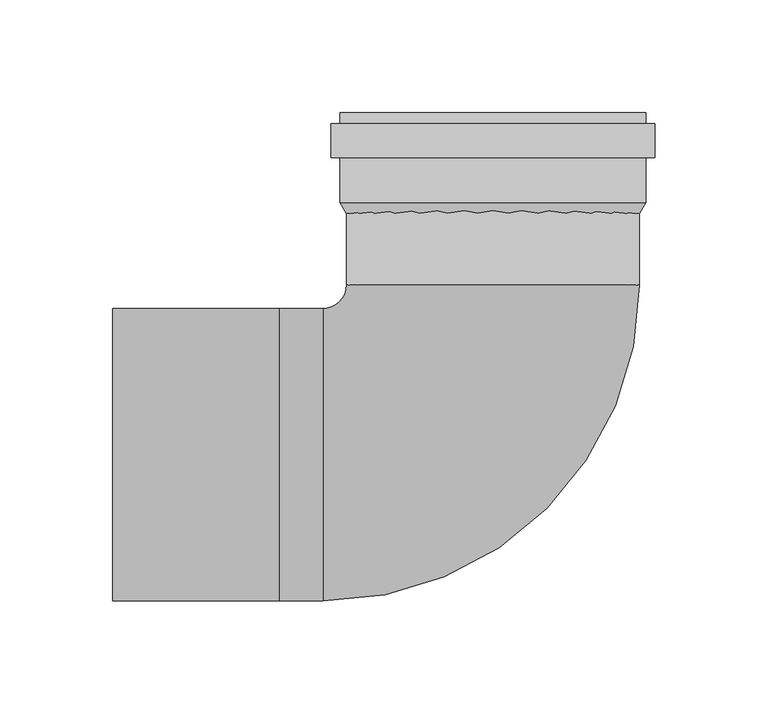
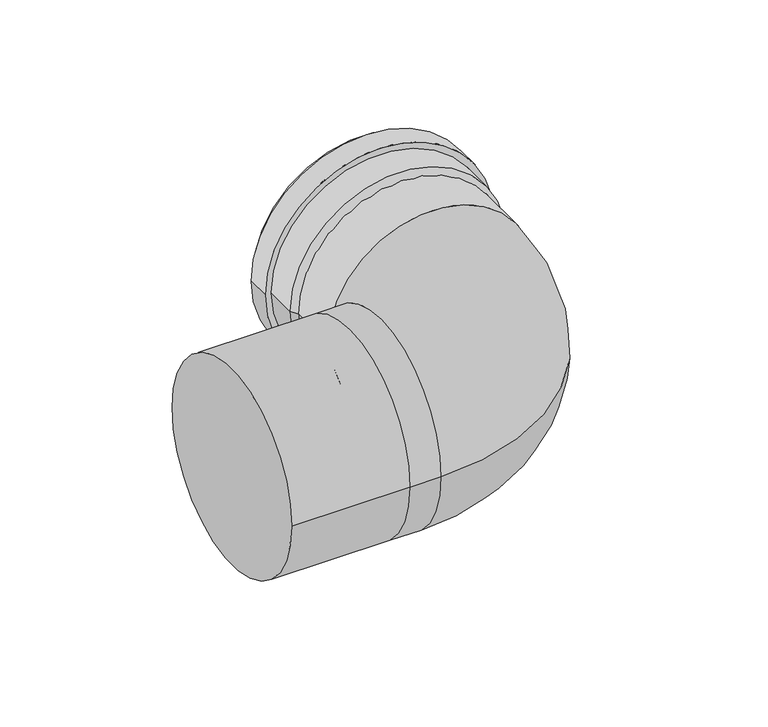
"""IFC4 building model written with IfcOpenShell, lengths in millimetres: duct fitting geometry, NLRS_57_DUF_UN_Twinline Bend_M&G : ø130 - 150 - 200."""

from ifc_helpers import new_model, si_unit, point, frame, origin, origin_2d, place, context, project, spatial, polyline, circle_curve, ellipse_curve, trimmed, segment, composite_curve, outline, extrude, source, transform, mapped, element, save
from ifc_brep_helpers import plane_surface, cylinder_surface, revolved_surface, advanced_brep


def duct_fitting_8a0d83d2(model_context):
    return source(origin(), model_context, "Body", "SolidModel", [
        advanced_brep(
        [(-169.0, 65.0, 0.0), (-169.0, -65.0, 0.0), (-95.0, 65.0, 0.0), (-95.0, -65.0, 0.0), (-75.4, -65.0, 0.0), (-75.4, 65.0, 0.0), (65.0, 75.4, 0.0), (-65.0, 75.4, 0.0), (65.0, 112.0, 0.0), (0.0, 112.0, 65.0), (-65.0, 112.0, 0.0), (0.0, 112.0, -65.0), (0.0, 114.0, -65.0), (0.0, 114.0, 65.0)],
        [
            (0, 1, circle_curve(frame((-169.0, 0.0, 0.0), z_axis=(-1.0, 0.0, 0.0), x_axis=(0.0, -1.0, 0.0)), 65.0)),
            (1, 0, circle_curve(frame((-169.0, 0.0, 0.0), z_axis=(-1.0, 0.0, 0.0), x_axis=(0.0, -1.0, 0.0)), 65.0)),
            (0, 2),
            (2, 3, circle_curve(frame((-95.0, 0.0, 0.0), z_axis=(-1.0, 0.0, 0.0), x_axis=(0.0, -1.0, 0.0)), 65.0)),
            (3, 1),
            (3, 2, circle_curve(frame((-95.0, 0.0, 0.0), z_axis=(-1.0, 0.0, 0.0), x_axis=(0.0, -1.0, 0.0)), 65.0)),
            (3, 4),
            (4, 5, circle_curve(frame((-75.4, 0.0, 0.0), z_axis=(-1.0, 0.0, 0.0), x_axis=(0.0, 1.0, 0.0)), 65.0)),
            (5, 2),
            (5, 4, circle_curve(frame((-75.4, 0.0, 0.0), z_axis=(-1.0, 0.0, 0.0), x_axis=(0.0, 1.0, 0.0)), 65.0)),
            (4, 6, circle_curve(frame((-75.4, 75.4, 0.0), z_axis=(0.0, 0.0, 1.0), x_axis=(0.0, -1.0, 0.0)), 140.4)),
            (6, 7, circle_curve(frame((0.0, 75.4, 0.0), z_axis=(0.0, -1.0, 0.0), x_axis=(-1.0, 0.0, 0.0)), 65.0)),
            (7, 5, circle_curve(frame((-75.4, 75.4, 0.0), z_axis=(0.0, 0.0, -1.0), x_axis=(0.0, -1.0, 0.0)), 10.4)),
            (7, 6, circle_curve(frame((0.0, 75.4, 0.0), z_axis=(0.0, -1.0, 0.0), x_axis=(-1.0, 0.0, 0.0)), 65.0)),
            (6, 8),
            (8, 9, circle_curve(frame((0.0, 112.0, 0.0), z_axis=(0.0, -1.0, 0.0), x_axis=(-1.0, 0.0, 0.0)), 65.0)),
            (9, 10, circle_curve(frame((0.0, 112.0, 0.0), z_axis=(0.0, -1.0, 0.0), x_axis=(-1.0, 0.0, 0.0)), 65.0)),
            (10, 7),
            (10, 11, circle_curve(frame((0.0, 112.0, 0.0), z_axis=(0.0, -1.0, 0.0), x_axis=(-1.0, 0.0, 0.0)), 65.0)),
            (11, 8, circle_curve(frame((0.0, 112.0, 0.0), z_axis=(0.0, -1.0, 0.0), x_axis=(-1.0, 0.0, 0.0)), 65.0)),
            (12, 13, circle_curve(frame((0.0, 114.0, 0.0), z_axis=(0.0, 1.0, 0.0), x_axis=(0.0, 0.0, 1.0)), 65.0)),
            (13, 12, circle_curve(frame((0.0, 114.0, 0.0), z_axis=(0.0, 1.0, 0.0), x_axis=(0.0, 0.0, 1.0)), 65.0)),
            (12, 11),
            (9, 13),
        ],
        [
            plane_surface(frame((-169.0, -65.0, 0.0), z_axis=(-1.0, 0.0, 0.0), x_axis=(0.0, 0.0, 1.0))),
            cylinder_surface(frame((-95.0, 0.0, 0.0), z_axis=(-1.0, 0.0, 0.0), x_axis=(0.0, -1.0, 0.0)), 65.0),
            cylinder_surface(frame((-95.0, 0.0, 0.0), z_axis=(-1.0, 0.0, 0.0), x_axis=(0.0, 1.0, 0.0)), 65.0),
            revolved_surface(trimmed(ellipse_curve(frame((-75.4, 0.0, 0.0), z_axis=(-1.0, 0.0, 0.0), x_axis=(0.0, 1.0, 0.0)), 65.0, 65.0), [point((-75.4, -65.0, 0.0))], [point((-75.4, 65.0, 0.0))], True, "CARTESIAN"), (-75.4, 75.4, 0.0), (0.0, 0.0, 1.0)),
            revolved_surface(trimmed(ellipse_curve(frame((-75.4, 0.0, 0.0), z_axis=(-1.0, 0.0, 0.0), x_axis=(0.0, 1.0, 0.0)), 65.0, 65.0), [point((-75.4, 65.0, 0.0))], [point((-75.4, -65.0, 0.0))], True, "CARTESIAN"), (-75.4, 75.4, 0.0), (0.0, 0.0, 1.0)),
            cylinder_surface(frame((0.0, 75.4, 0.0), z_axis=(0.0, -1.0, 0.0), x_axis=(-1.0, 0.0, 0.0)), 65.0),
            plane_surface(frame((0.0, 114.0, 65.0), z_axis=(0.0, 1.0, 0.0), x_axis=(1.0, 0.0, 0.0))),
            cylinder_surface(frame((0.0, 112.0, 0.0), z_axis=(0.0, 1.0, 0.0), x_axis=(0.0, 0.0, 1.0)), 65.0),
        ],
        [
            (0, [[1, 2]]),
            (1, [[-1, 3, 4, 5]]),
            (1, [[-2, -5, 6, -3]]),
            (2, [[7, 8, 9, -6]]),
            (2, [[-7, -4, -9, 10]]),
            (3, [[-8, 11, 12, 13]]),
            (4, [[-10, -13, 14, -11]]),
            (5, [[-12, 15, 16, 17, 18]]),
            (5, [[-14, -18, 19, 20, -15]]),
            (6, [[21, 22]]),
            (7, [[-21, 23, -19, -17, 24]]),
            (7, [[-22, -24, -16, -20, -23]]),
        ],
    ),
        extrude(outline(composite_curve([segment(trimmed(circle_curve(origin_2d(), 72.0), [point((0.0, 72.0))], [point((0.0, -72.0))], False, "CARTESIAN"), True, "CONTINUOUS"), segment(trimmed(circle_curve(origin_2d(), 72.0), [point((0.0, -72.0))], [point((0.0, 72.0))], False, "CARTESIAN"), True, "CONTINUOUS")], self_intersect=False), holes=[composite_curve([segment(trimmed(circle_curve(origin_2d(), 68.0), [point((0.0, -68.0))], [point((0.0, 68.0))], True, "CARTESIAN"), True, "CONTINUOUS"), segment(trimmed(circle_curve(origin_2d(), 68.0), [point((0.0, 68.0))], [point((0.0, -68.0))], True, "CARTESIAN"), True, "CONTINUOUS")], self_intersect=False)]), frame((0.0, 132.0, 0.0), z_axis=(0.0, 1.0, 0.0), x_axis=(0.0, 0.0, 1.0)), (0.0, 0.0, 1.0), 15.0),
        advanced_brep(
        [(-68.0, 112.0, 0.0), (68.0, 112.0, 0.0), (68.0, 152.0, 0.0), (-68.0, 152.0, 0.0), (-65.0, 107.0, 0.0), (65.0, 107.0, 0.0), (-65.0, 152.0, 0.0), (65.0, 152.0, 0.0)],
        [
            (0, 1, circle_curve(frame((0.0, 112.0, 0.0), z_axis=(0.0, 1.0, 0.0), x_axis=(1.0, 0.0, 0.0)), 68.0)),
            (1, 2),
            (2, 3, circle_curve(frame((0.0, 152.0, 0.0), z_axis=(0.0, -1.0, 0.0), x_axis=(1.0, 0.0, 0.0)), 68.0)),
            (3, 0),
            (4, 5, circle_curve(frame((0.0, 107.0, 0.0), z_axis=(0.0, 1.0, 0.0), x_axis=(1.0, 0.0, 0.0)), 65.0)),
            (5, 1),
            (0, 4),
            (6, 7, circle_curve(frame((0.0, 152.0, 0.0), z_axis=(0.0, 1.0, 0.0), x_axis=(1.0, 0.0, 0.0)), 65.0)),
            (7, 5),
            (4, 6),
            (2, 3, circle_curve(frame((0.0, 152.0, 0.0), z_axis=(0.0, 1.0, 0.0), x_axis=(-1.0, 0.0, 0.0)), 68.0)),
            (6, 7, circle_curve(frame((0.0, 152.0, 0.0), z_axis=(0.0, -1.0, 0.0), x_axis=(-1.0, 0.0, 0.0)), 65.0)),
            (1, 0, circle_curve(frame((0.0, 112.0, 0.0), z_axis=(0.0, 1.0, 0.0), x_axis=(-1.0, 0.0, 0.0)), 68.0)),
            (5, 4, circle_curve(frame((0.0, 107.0, 0.0), z_axis=(0.0, 1.0, 0.0), x_axis=(-1.0, 0.0, 0.0)), 65.0)),
        ],
        [
            cylinder_surface(frame((0.0, 112.0, 0.0), z_axis=(0.0, -1.0, 0.0), x_axis=(1.0, 0.0, 0.0)), 68.0),
            revolved_surface(polyline([(68.0, 112.0, 0.0), (65.0, 107.0, 0.0)]), (0.0, 112.0, 0.0), (0.0, -1.0, 0.0)),
            revolved_surface(polyline([(65.0, 107.0, 0.0), (65.0, 152.0, 0.0)]), (0.0, 112.0, 0.0), (0.0, -1.0, 0.0)),
            plane_surface(frame((0.0, 152.0, 0.0), z_axis=(0.0, 1.0, 0.0), x_axis=(-1.0, 0.0, 0.0))),
            cylinder_surface(frame((0.0, 112.0, 0.0), z_axis=(0.0, -1.0, 0.0), x_axis=(-1.0, 0.0, 0.0)), 68.0),
            revolved_surface(polyline([(-68.0, 112.0, 0.0), (-65.0, 107.0, 0.0)]), (0.0, 112.0, 0.0), (0.0, -1.0, 0.0)),
            revolved_surface(polyline([(-65.0, 107.0, 0.0), (-65.0, 152.0, 0.0)]), (0.0, 112.0, 0.0), (0.0, -1.0, 0.0)),
        ],
        [
            (0, [[1, 2, 3, 4]]),
            (1, [[5, 6, -1, 7]]),
            (2, [[8, 9, -5, 10]]),
            (3, [[11, -3], [12, -8]]),
            (4, [[13, -4, -11, -2]]),
            (5, [[14, -7, -13, -6]]),
            (6, [[-12, -10, -14, -9]]),
        ],
    ),
    ])


if __name__ == "__main__":
    model = new_model("IFC4")
    model_context = context("Model", 3, world=origin())
    ifc_project = project(units=[si_unit("LENGTHUNIT", "METRE", prefix="MILLI")], contexts=[model_context])
    site = spatial("IfcSite", under=ifc_project)
    building = spatial("IfcBuilding", under=site)
    placement = place(None, origin())
    duct_fitting_shape = duct_fitting_8a0d83d2(model_context)
    element("IfcDuctFitting", 1, ObjectType="NLRS_57_DUF_UN_Twinline Bend_M&G : ø130 - 150 - 200", at=placement, inside=building, context=model_context, shape_type="MappedRepresentation", body=[
        mapped(duct_fitting_shape, transform((0.0, 0.0, 0.0), x_axis=(1.0, 0.0, 0.0), y_axis=(0.0, 1.0, 0.0), z_axis=(0.0, 0.0, 1.0))),
    ])
    save(model, "model.ifc")
